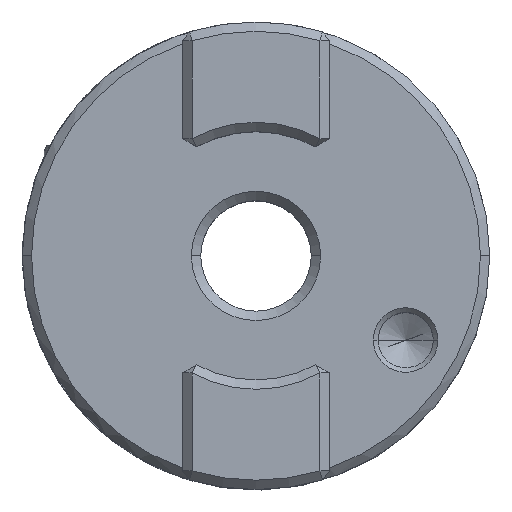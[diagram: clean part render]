
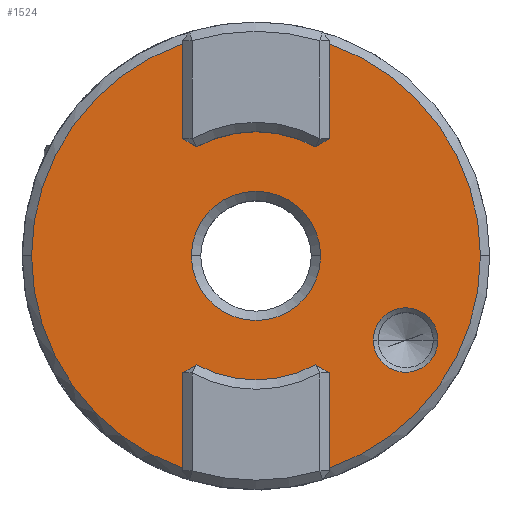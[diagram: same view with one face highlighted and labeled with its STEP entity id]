
A CAD part, top view. The second image highlights one B-rep face of the part: STEP entity #1524.
In plain terms, the highlighted planar face has unit normal (0, 0, 1).
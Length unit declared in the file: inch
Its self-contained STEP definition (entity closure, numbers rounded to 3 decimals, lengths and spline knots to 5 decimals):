
#55=CARTESIAN_POINT('',(0.32,-0.18,0.467));
#56=DIRECTION('',(0.,0.,-1.));
#57=DIRECTION('',(-1.,0.,0.));
#58=AXIS2_PLACEMENT_3D('',#55,#56,#57);
#64=CARTESIAN_POINT('',(0.,0.,0.467));
#65=DIRECTION('',(0.,0.,1.));
#66=DIRECTION('',(1.,0.,0.));
#67=AXIS2_PLACEMENT_3D('',#64,#65,#66);
#69=CARTESIAN_POINT('',(0.,0.,0.467));
#70=DIRECTION('',(0.,0.,1.));
#71=DIRECTION('',(0.327,-0.945,0.));
#72=AXIS2_PLACEMENT_3D('',#69,#70,#71);
#74=DIRECTION('',(0.,-1.,0.));
#75=VECTOR('',#74,0.20308);
#76=CARTESIAN_POINT('',(0.1568,-0.25059,0.467));
#77=LINE('',#76,#75);
#78=DIRECTION('',(0.86,-0.51,0.));
#79=VECTOR('',#78,0.0344);
#80=CARTESIAN_POINT('',(0.12722,-0.23304,0.467));
#81=LINE('',#80,#79);
#82=CARTESIAN_POINT('',(0.,0.,0.467));
#83=DIRECTION('',(0.,0.,1.));
#84=DIRECTION('',(-0.479,-0.878,0.));
#85=AXIS2_PLACEMENT_3D('',#82,#83,#84);
#87=DIRECTION('',(0.86,0.51,0.));
#88=VECTOR('',#87,0.0344);
#89=CARTESIAN_POINT('',(-0.1567,-0.25065,0.467));
#90=LINE('',#89,#88);
#91=DIRECTION('',(0.,1.,0.));
#92=VECTOR('',#91,0.20306);
#93=CARTESIAN_POINT('',(-0.1567,-0.4537,0.467));
#94=LINE('',#93,#92);
#95=CARTESIAN_POINT('',(0.,0.,0.467));
#96=DIRECTION('',(0.,0.,1.));
#97=DIRECTION('',(-1.,0.,0.));
#98=AXIS2_PLACEMENT_3D('',#95,#96,#97);
#100=CARTESIAN_POINT('',(0.,0.,0.467));
#101=DIRECTION('',(0.,0.,1.));
#102=DIRECTION('',(-0.326,0.945,0.));
#103=AXIS2_PLACEMENT_3D('',#100,#101,#102);
#105=DIRECTION('',(0.,1.,0.));
#106=VECTOR('',#105,0.20306);
#107=CARTESIAN_POINT('',(-0.1567,0.25065,0.467));
#108=LINE('',#107,#106);
#109=DIRECTION('',(-0.86,0.51,0.));
#110=VECTOR('',#109,0.0344);
#111=CARTESIAN_POINT('',(-0.12712,0.23309,0.467));
#112=LINE('',#111,#110);
#113=CARTESIAN_POINT('',(0.,0.,0.467));
#114=DIRECTION('',(0.,0.,1.));
#115=DIRECTION('',(0.479,0.878,0.));
#116=AXIS2_PLACEMENT_3D('',#113,#114,#115);
#118=DIRECTION('',(-0.86,-0.51,0.));
#119=VECTOR('',#118,0.0344);
#120=CARTESIAN_POINT('',(0.1568,0.25059,0.467));
#121=LINE('',#120,#119);
#122=DIRECTION('',(0.,-1.,0.));
#123=VECTOR('',#122,0.20308);
#124=CARTESIAN_POINT('',(0.1568,0.45367,0.467));
#125=LINE('',#124,#123);
#126=CARTESIAN_POINT('',(0.32,-0.18,0.467));
#127=DIRECTION('',(0.,0.,-1.));
#128=DIRECTION('',(1.,0.,0.));
#129=AXIS2_PLACEMENT_3D('',#126,#127,#128);
#131=CARTESIAN_POINT('',(0.,0.,0.467));
#132=DIRECTION('',(0.,0.,-1.));
#133=DIRECTION('',(-1.,0.,0.));
#134=AXIS2_PLACEMENT_3D('',#131,#132,#133);
#136=CARTESIAN_POINT('',(0.,0.,0.467));
#137=DIRECTION('',(0.,0.,-1.));
#138=DIRECTION('',(1.,0.,0.));
#139=AXIS2_PLACEMENT_3D('',#136,#137,#138);
#1109=CARTESIAN_POINT('',(0.25095,-0.18,0.467));
#1110=VERTEX_POINT('',#1109);
#1111=CARTESIAN_POINT('',(0.38905,-0.18,0.467));
#1112=VERTEX_POINT('',#1111);
#1113=CARTESIAN_POINT('',(0.48,0.,0.467));
#1114=CARTESIAN_POINT('',(0.1568,0.45367,0.467));
#1115=VERTEX_POINT('',#1113);
#1116=VERTEX_POINT('',#1114);
#1117=CARTESIAN_POINT('',(0.1568,-0.45367,0.467));
#1118=VERTEX_POINT('',#1117);
#1119=CARTESIAN_POINT('',(0.1568,-0.25059,0.467));
#1120=VERTEX_POINT('',#1119);
#1121=CARTESIAN_POINT('',(0.12722,-0.23304,0.467));
#1122=VERTEX_POINT('',#1121);
#1123=CARTESIAN_POINT('',(-0.12712,-0.23309,0.467));
#1124=VERTEX_POINT('',#1123);
#1125=CARTESIAN_POINT('',(-0.1567,-0.25065,0.467));
#1126=VERTEX_POINT('',#1125);
#1127=CARTESIAN_POINT('',(-0.1567,-0.4537,0.467));
#1128=VERTEX_POINT('',#1127);
#1129=CARTESIAN_POINT('',(-0.48,0.,0.467));
#1130=VERTEX_POINT('',#1129);
#1131=CARTESIAN_POINT('',(-0.1567,0.4537,0.467));
#1132=VERTEX_POINT('',#1131);
#1133=CARTESIAN_POINT('',(-0.1567,0.25065,0.467));
#1134=VERTEX_POINT('',#1133);
#1135=CARTESIAN_POINT('',(-0.12712,0.23309,0.467));
#1136=VERTEX_POINT('',#1135);
#1137=CARTESIAN_POINT('',(0.12722,0.23304,0.467));
#1138=VERTEX_POINT('',#1137);
#1139=CARTESIAN_POINT('',(0.1568,0.25059,0.467));
#1140=VERTEX_POINT('',#1139);
#1141=CARTESIAN_POINT('',(-0.1381,0.,0.467));
#1142=CARTESIAN_POINT('',(0.1381,0.,0.467));
#1143=VERTEX_POINT('',#1141);
#1144=VERTEX_POINT('',#1142);
#1479=CARTESIAN_POINT('',(0.,0.,0.467));
#1480=DIRECTION('',(0.,0.,1.));
#1481=DIRECTION('',(1.,0.,0.));
#1482=AXIS2_PLACEMENT_3D('',#1479,#1480,#1481);
#1483=PLANE('',#1482);
#1485=ORIENTED_EDGE('',*,*,#1484,.F.);
#1487=ORIENTED_EDGE('',*,*,#1486,.F.);
#1489=ORIENTED_EDGE('',*,*,#1488,.F.);
#1491=ORIENTED_EDGE('',*,*,#1490,.F.);
#1493=ORIENTED_EDGE('',*,*,#1492,.F.);
#1495=ORIENTED_EDGE('',*,*,#1494,.F.);
#1497=ORIENTED_EDGE('',*,*,#1496,.F.);
#1499=ORIENTED_EDGE('',*,*,#1498,.F.);
#1501=ORIENTED_EDGE('',*,*,#1500,.F.);
#1503=ORIENTED_EDGE('',*,*,#1502,.F.);
#1505=ORIENTED_EDGE('',*,*,#1504,.F.);
#1507=ORIENTED_EDGE('',*,*,#1506,.F.);
#1509=ORIENTED_EDGE('',*,*,#1508,.F.);
#1511=ORIENTED_EDGE('',*,*,#1510,.F.);
#1512=EDGE_LOOP('',(#1485,#1487,#1489,#1491,#1493,#1495,#1497,#1499,#1501,#1503,
#1505,#1507,#1509,#1511));
#1513=FACE_OUTER_BOUND('',#1512,.F.);
#1514=ORIENTED_EDGE('',*,*,#1465,.F.);
#1515=ORIENTED_EDGE('',*,*,#1445,.F.);
#1516=EDGE_LOOP('',(#1514,#1515));
#1517=FACE_BOUND('',#1516,.F.);
#1519=ORIENTED_EDGE('',*,*,#1518,.F.);
#1521=ORIENTED_EDGE('',*,*,#1520,.F.);
#1522=EDGE_LOOP('',(#1519,#1521));
#1523=FACE_BOUND('',#1522,.F.);
#59=CIRCLE('',#58,0.06905);
#68=CIRCLE('',#67,0.48);
#73=CIRCLE('',#72,0.48);
#86=CIRCLE('',#85,0.2655);
#99=CIRCLE('',#98,0.48);
#104=CIRCLE('',#103,0.48);
#117=CIRCLE('',#116,0.2655);
#130=CIRCLE('',#129,0.06905);
#135=CIRCLE('',#134,0.1381);
#140=CIRCLE('',#139,0.1381);
#1445=EDGE_CURVE('',#1112,#1110,#130,.T.);
#1465=EDGE_CURVE('',#1110,#1112,#59,.T.);
#1484=EDGE_CURVE('',#1115,#1116,#68,.T.);
#1486=EDGE_CURVE('',#1118,#1115,#73,.T.);
#1488=EDGE_CURVE('',#1120,#1118,#77,.T.);
#1490=EDGE_CURVE('',#1122,#1120,#81,.T.);
#1492=EDGE_CURVE('',#1124,#1122,#86,.T.);
#1494=EDGE_CURVE('',#1126,#1124,#90,.T.);
#1496=EDGE_CURVE('',#1128,#1126,#94,.T.);
#1498=EDGE_CURVE('',#1130,#1128,#99,.T.);
#1500=EDGE_CURVE('',#1132,#1130,#104,.T.);
#1502=EDGE_CURVE('',#1134,#1132,#108,.T.);
#1504=EDGE_CURVE('',#1136,#1134,#112,.T.);
#1506=EDGE_CURVE('',#1138,#1136,#117,.T.);
#1508=EDGE_CURVE('',#1140,#1138,#121,.T.);
#1510=EDGE_CURVE('',#1116,#1140,#125,.T.);
#1518=EDGE_CURVE('',#1143,#1144,#135,.T.);
#1520=EDGE_CURVE('',#1144,#1143,#140,.T.);
#1524=ADVANCED_FACE('',(#1513,#1517,#1523),#1483,.T.);
